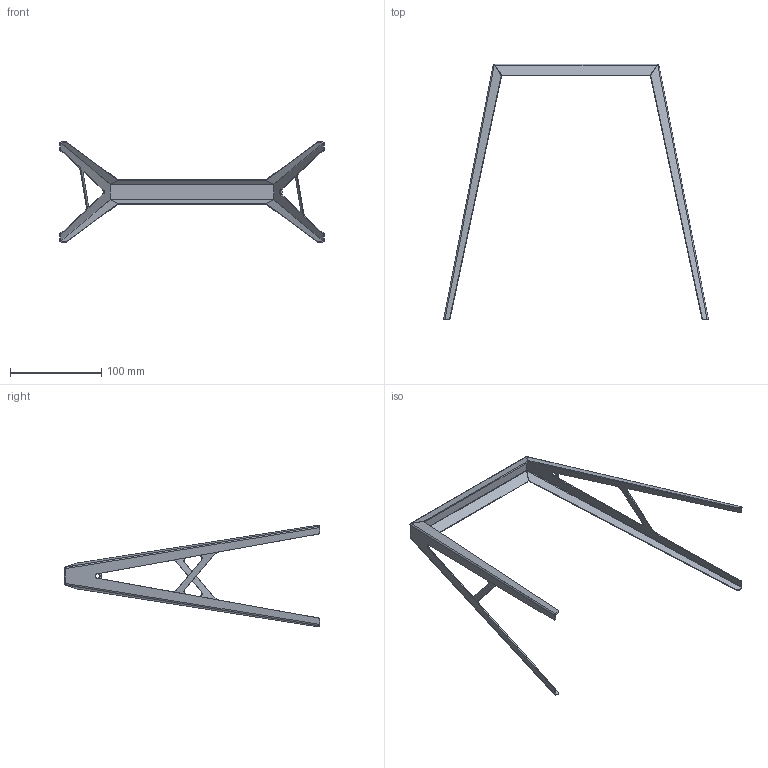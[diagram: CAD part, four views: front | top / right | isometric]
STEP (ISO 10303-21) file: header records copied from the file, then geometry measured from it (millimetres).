
FILE_DESCRIPTION (( 'STEP AP203' ), '1' );
FILE_NAME ('320_ALTA_T_L_3D.STEP', '2022-10-24T08:33:48', ( '' ), ( '' ), 'SwSTEP 2.0', 'SolidWorks 2022', '' );
FILE_SCHEMA (( 'CONFIG_CONTROL_DESIGN' ));
Length unit declared in the file: millimetre
Products named in the file (1): 320_ALTA_T_L_3D
Bounding box: 290.09 x 279.96 x 111.43 mm (x, y, z)
Volume: 34932.1 mm3; surface area: 61825 mm2
Topology: 1 solids, 1 shells, 144 faces, 368 edges, 224 vertices
Faces by surface type: cylinder 62, plane 50, bspline 32
Entity records: 4673 total; most frequent: CARTESIAN_POINT 1369, ORIENTED_EDGE 736, DIRECTION 574, EDGE_CURVE 368, VERTEX_POINT 224, AXIS2_PLACEMENT_3D 205, LINE 164, VECTOR 164
